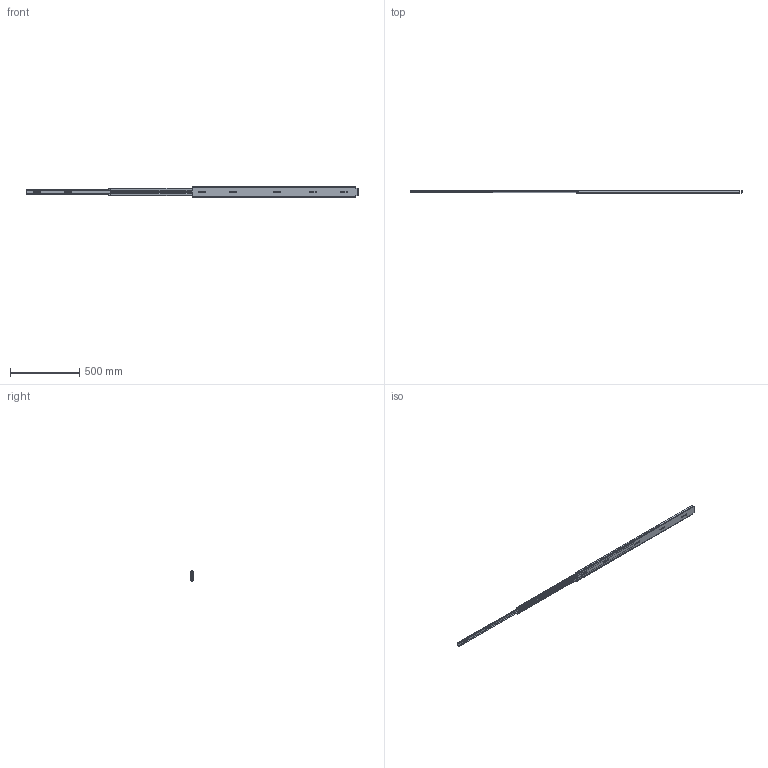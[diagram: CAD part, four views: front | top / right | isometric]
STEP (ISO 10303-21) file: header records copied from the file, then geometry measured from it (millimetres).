
FILE_DESCRIPTION((''),'2;1');
FILE_NAME('KP-76-05-48_ASM','2022-07-07T',('jishu015'),(''),'PRO/ENGINEER BY PARAMETRIC TECHNOLOGY CORPORATION, 2010280','PRO/ENGINEER BY PARAMETRIC TECHNOLOGY CORPORATION, 2010280','');
FILE_SCHEMA(('CONFIG_CONTROL_DESIGN'));
Length unit declared in the file: millimetre
Products named in the file (15): KP-76-04WAIKE-18_______; 1076-WAIKEZIDANJIAO_______; WAIKE______ASM; 1076XIAOZHUTIAO-225_______; 1____; 1076XIAOZHUTIAO-175________ASM; KP-76-04ZHONGGUI18_______; 76CHANGGUIZHONGGUIJIAO_______; 3X6WODIN_______; ZHONGGUI______ASM; KP-76-04NEIGUI18_______; 1076XIAOZHUTIAO-175________; 7-9-GANZHU________; 1076XIAOZHUTIAO-200______ASM; KP-76-05-48_ASM
Assembly tree (57 placements, depth 3):
  KP-76-05-48_ASM
    WAIKE______ASM
      KP-76-04WAIKE-18_______
      1076-WAIKEZIDANJIAO_______  x2
    1076XIAOZHUTIAO-175________ASM  x2
      1076XIAOZHUTIAO-225_______
      1____
    ZHONGGUI______ASM
      KP-76-04ZHONGGUI18_______
      76CHANGGUIZHONGGUIJIAO_______
      3X6WODIN_______
    KP-76-04NEIGUI18_______
    1076XIAOZHUTIAO-200______ASM  x2
      1076XIAOZHUTIAO-175________
      7-9-GANZHU________
Bounding box: 2400 x 19.5 x 75.29 mm (x, y, z)
Volume: 807452.1 mm3; surface area: 721236.7 mm2
Topology: 95 solids, 95 shells, 1375 faces, 4597 edges, 2889 vertices
Faces by surface type: plane 825, cylinder 370, sphere 170, cone 10
Entity records: 31777 total; most frequent: CARTESIAN_POINT 6641, ORIENTED_EDGE 5454, DIRECTION 5183, EDGE_CURVE 2727, AXIS2_PLACEMENT_3D 1911, VERTEX_POINT 1813, VECTOR 1361, LINE 1361
